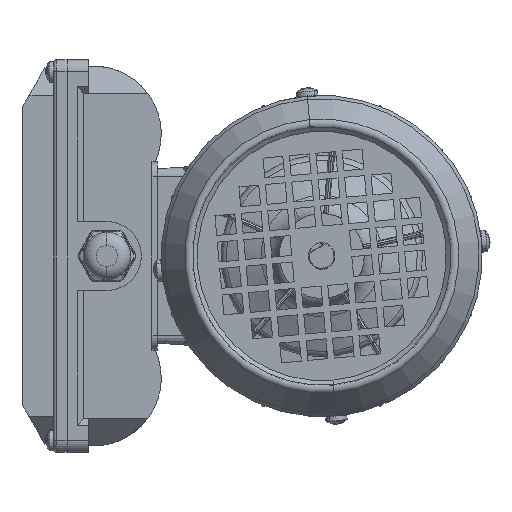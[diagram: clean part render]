
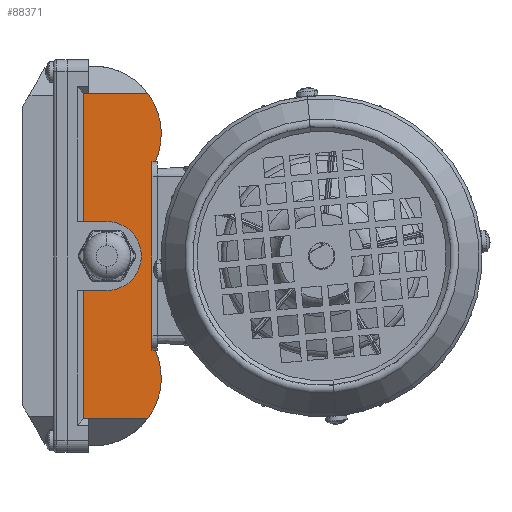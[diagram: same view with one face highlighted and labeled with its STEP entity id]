
A CAD part, left-side view. The second image highlights one B-rep face of the part: STEP entity #88371.
In plain terms, the highlighted planar face has unit normal (-1, 0, 0).
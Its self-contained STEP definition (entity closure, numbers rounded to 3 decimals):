
#439 = VERTEX_POINT ( 'NONE', #62200 ) ;
#1003 = LINE ( 'NONE', #32365, #25087 ) ;
#1068 = CARTESIAN_POINT ( 'NONE',  ( -24.994, 89.139, -13. ) ) ;
#1349 = DIRECTION ( 'NONE',  ( 0., 0., -1. ) ) ;
#3203 = VERTEX_POINT ( 'NONE', #7267 ) ;
#7267 = CARTESIAN_POINT ( 'NONE',  ( -24.994, 80.199, 13. ) ) ;
#7804 = CARTESIAN_POINT ( 'NONE',  ( -24.994, 93.199, 13. ) ) ;
#8144 = CARTESIAN_POINT ( 'NONE',  ( -24.994, 93.199, 61.328 ) ) ;
#8919 = EDGE_CURVE ( 'NONE', #85556, #439, #12441, .T. ) ;
#10209 = EDGE_CURVE ( 'NONE', #91442, #48442, #35202, .T. ) ;
#11901 = CARTESIAN_POINT ( 'NONE',  ( -24.994, 89.139, 74. ) ) ;
#12441 = LINE ( 'NONE', #59695, #94866 ) ;
#14302 = CIRCLE ( 'NONE', #22534, 13. ) ;
#14931 = ORIENTED_EDGE ( 'NONE', *, *, #60819, .F. ) ;
#15147 = LINE ( 'NONE', #101512, #89477 ) ;
#15520 = CARTESIAN_POINT ( 'NONE',  ( -24.994, 61.961, 35.5 ) ) ;
#15646 = CARTESIAN_POINT ( 'NONE',  ( -24.994, 89.139, -61.328 ) ) ;
#16855 = DIRECTION ( 'NONE',  ( 0., 1., 0. ) ) ;
#16902 = CARTESIAN_POINT ( 'NONE',  ( -24.994, 63.199, 35.5 ) ) ;
#16957 = ORIENTED_EDGE ( 'NONE', *, *, #53517, .T. ) ;
#17280 = CARTESIAN_POINT ( 'NONE',  ( -24.994, 85.199, 46. ) ) ;
#18387 = VERTEX_POINT ( 'NONE', #84922 ) ;
#19918 = EDGE_CURVE ( 'NONE', #90905, #21284, #65215, .T. ) ;
#20732 = EDGE_LOOP ( 'NONE', ( #14931, #92014, #71562, #38436, #83243, #33082, #43314, #16957, #101548, #95168, #77445, #88870, #54811, #77204 ) ) ;
#21021 = CARTESIAN_POINT ( 'NONE',  ( -24.994, 63.199, 0. ) ) ;
#21284 = VERTEX_POINT ( 'NONE', #77273 ) ;
#21456 = VECTOR ( 'NONE', #62704, 1000. ) ;
#21580 = CARTESIAN_POINT ( 'NONE',  ( -24.994, 61.961, -35.5 ) ) ;
#21740 = VECTOR ( 'NONE', #52369, 1000. ) ;
#21746 = CARTESIAN_POINT ( 'NONE',  ( -24.994, 89.139, 61.328 ) ) ;
#22534 = AXIS2_PLACEMENT_3D ( 'NONE', #30940, #70504, #70000 ) ;
#23040 = LINE ( 'NONE', #21021, #21740 ) ;
#25087 = VECTOR ( 'NONE', #63699, 1000. ) ;
#25249 = EDGE_CURVE ( 'NONE', #85556, #28955, #85322, .T. ) ;
#26588 = DIRECTION ( 'NONE',  ( 1., 0., 0. ) ) ;
#26650 = EDGE_CURVE ( 'NONE', #18387, #61681, #70836, .T. ) ;
#28047 = VERTEX_POINT ( 'NONE', #21746 ) ;
#28826 = VECTOR ( 'NONE', #66384, 1000. ) ;
#28955 = VERTEX_POINT ( 'NONE', #51983 ) ;
#28966 = EDGE_CURVE ( 'NONE', #28047, #32799, #75124, .T. ) ;
#30784 = CARTESIAN_POINT ( 'NONE',  ( -24.994, 87.199, 61.328 ) ) ;
#30940 = CARTESIAN_POINT ( 'NONE',  ( -24.994, 80.199, 0. ) ) ;
#31374 = CARTESIAN_POINT ( 'NONE',  ( -24.994, 93.199, 61.328 ) ) ;
#32365 = CARTESIAN_POINT ( 'NONE',  ( -24.994, 93.199, -61.328 ) ) ;
#32799 = VERTEX_POINT ( 'NONE', #80274 ) ;
#33082 = ORIENTED_EDGE ( 'NONE', *, *, #25249, .F. ) ;
#33125 = EDGE_CURVE ( 'NONE', #28955, #18387, #1003, .T. ) ;
#34695 = CARTESIAN_POINT ( 'NONE',  ( -24.994, 89.139, -13. ) ) ;
#35202 = LINE ( 'NONE', #34695, #73116 ) ;
#37241 = CARTESIAN_POINT ( 'NONE',  ( -24.994, 89.139, 74. ) ) ;
#37506 = VERTEX_POINT ( 'NONE', #96469 ) ;
#37821 = CIRCLE ( 'NONE', #100213, 25.5 ) ;
#38130 = EDGE_CURVE ( 'NONE', #3203, #32799, #55070, .T. ) ;
#38436 = ORIENTED_EDGE ( 'NONE', *, *, #26650, .F. ) ;
#38807 = EDGE_CURVE ( 'NONE', #48442, #61681, #15147, .T. ) ;
#39481 = CARTESIAN_POINT ( 'NONE',  ( -24.994, 87.199, -61.328 ) ) ;
#42805 = VECTOR ( 'NONE', #16855, 1000. ) ;
#43314 = ORIENTED_EDGE ( 'NONE', *, *, #8919, .T. ) ;
#46856 = DIRECTION ( 'NONE',  ( 0., 1., 0. ) ) ;
#47185 = LINE ( 'NONE', #8144, #94268 ) ;
#47720 = DIRECTION ( 'NONE',  ( 0., 1., 0. ) ) ;
#48442 = VERTEX_POINT ( 'NONE', #1068 ) ;
#51259 = EDGE_CURVE ( 'NONE', #28047, #78834, #78159, .T. ) ;
#51608 = VECTOR ( 'NONE', #46856, 1000. ) ;
#51983 = CARTESIAN_POINT ( 'NONE',  ( -24.994, 64.82, -61.328 ) ) ;
#52369 = DIRECTION ( 'NONE',  ( 0., 0., 1. ) ) ;
#52578 = AXIS2_PLACEMENT_3D ( 'NONE', #37241, #99481, #77828 ) ;
#53517 = EDGE_CURVE ( 'NONE', #439, #21284, #23040, .T. ) ;
#54692 = CARTESIAN_POINT ( 'NONE',  ( -24.994, 80.199, -13. ) ) ;
#54811 = ORIENTED_EDGE ( 'NONE', *, *, #28966, .T. ) ;
#55070 = LINE ( 'NONE', #7804, #51608 ) ;
#55155 = VECTOR ( 'NONE', #47720, 1000. ) ;
#59695 = CARTESIAN_POINT ( 'NONE',  ( -24.994, 63.199, -35.5 ) ) ;
#60819 = EDGE_CURVE ( 'NONE', #91442, #3203, #14302, .T. ) ;
#61681 = VERTEX_POINT ( 'NONE', #15646 ) ;
#62200 = CARTESIAN_POINT ( 'NONE',  ( -24.994, 63.199, -35.5 ) ) ;
#62704 = DIRECTION ( 'NONE',  ( 0., -1., 0. ) ) ;
#63699 = DIRECTION ( 'NONE',  ( 0., 1., 0. ) ) ;
#65215 = LINE ( 'NONE', #16902, #55155 ) ;
#66384 = DIRECTION ( 'NONE',  ( 0., 0., -1. ) ) ;
#68609 = FACE_OUTER_BOUND ( 'NONE', #20732, .T. ) ;
#70000 = DIRECTION ( 'NONE',  ( 0., 0., -1. ) ) ;
#70117 = PLANE ( 'NONE',  #52578 ) ;
#70504 = DIRECTION ( 'NONE',  ( -1., 0., 0. ) ) ;
#70836 = LINE ( 'NONE', #39481, #42805 ) ;
#70843 = DIRECTION ( 'NONE',  ( 0., -1., 0. ) ) ;
#71562 = ORIENTED_EDGE ( 'NONE', *, *, #38807, .T. ) ;
#73116 = VECTOR ( 'NONE', #81995, 1000. ) ;
#73359 = CARTESIAN_POINT ( 'NONE',  ( -24.994, 85.199, -46. ) ) ;
#74213 = DIRECTION ( 'NONE',  ( 0., 0., -1. ) ) ;
#75124 = LINE ( 'NONE', #11901, #28826 ) ;
#77204 = ORIENTED_EDGE ( 'NONE', *, *, #38130, .F. ) ;
#77273 = CARTESIAN_POINT ( 'NONE',  ( -24.994, 63.199, 35.5 ) ) ;
#77445 = ORIENTED_EDGE ( 'NONE', *, *, #86871, .F. ) ;
#77828 = DIRECTION ( 'NONE',  ( 0., 0., -1. ) ) ;
#78159 = LINE ( 'NONE', #31374, #21456 ) ;
#78834 = VERTEX_POINT ( 'NONE', #30784 ) ;
#80274 = CARTESIAN_POINT ( 'NONE',  ( -24.994, 89.139, 13. ) ) ;
#81995 = DIRECTION ( 'NONE',  ( 0., 1., 0. ) ) ;
#83243 = ORIENTED_EDGE ( 'NONE', *, *, #33125, .F. ) ;
#83378 = DIRECTION ( 'NONE',  ( 0., 1., 0. ) ) ;
#84922 = CARTESIAN_POINT ( 'NONE',  ( -24.994, 87.199, -61.328 ) ) ;
#85322 = CIRCLE ( 'NONE', #88547, 25.5 ) ;
#85556 = VERTEX_POINT ( 'NONE', #21580 ) ;
#86871 = EDGE_CURVE ( 'NONE', #78834, #37506, #47185, .T. ) ;
#88164 = EDGE_CURVE ( 'NONE', #37506, #90905, #37821, .T. ) ;
#88371 = ADVANCED_FACE ( 'NONE', ( #68609 ), #70117, .F. ) ;
#88547 = AXIS2_PLACEMENT_3D ( 'NONE', #73359, #26588, #95518 ) ;
#88723 = DIRECTION ( 'NONE',  ( 1., 0., 0. ) ) ;
#88870 = ORIENTED_EDGE ( 'NONE', *, *, #51259, .F. ) ;
#89477 = VECTOR ( 'NONE', #74213, 1000. ) ;
#90905 = VERTEX_POINT ( 'NONE', #15520 ) ;
#91442 = VERTEX_POINT ( 'NONE', #54692 ) ;
#92014 = ORIENTED_EDGE ( 'NONE', *, *, #10209, .T. ) ;
#94268 = VECTOR ( 'NONE', #70843, 1000. ) ;
#94866 = VECTOR ( 'NONE', #83378, 1000. ) ;
#95168 = ORIENTED_EDGE ( 'NONE', *, *, #88164, .F. ) ;
#95518 = DIRECTION ( 'NONE',  ( 0., 0., -1. ) ) ;
#96469 = CARTESIAN_POINT ( 'NONE',  ( -24.994, 64.82, 61.328 ) ) ;
#99481 = DIRECTION ( 'NONE',  ( 1., 0., 0. ) ) ;
#100213 = AXIS2_PLACEMENT_3D ( 'NONE', #17280, #88723, #1349 ) ;
#101512 = CARTESIAN_POINT ( 'NONE',  ( -24.994, 89.139, 74. ) ) ;
#101548 = ORIENTED_EDGE ( 'NONE', *, *, #19918, .F. ) ;
